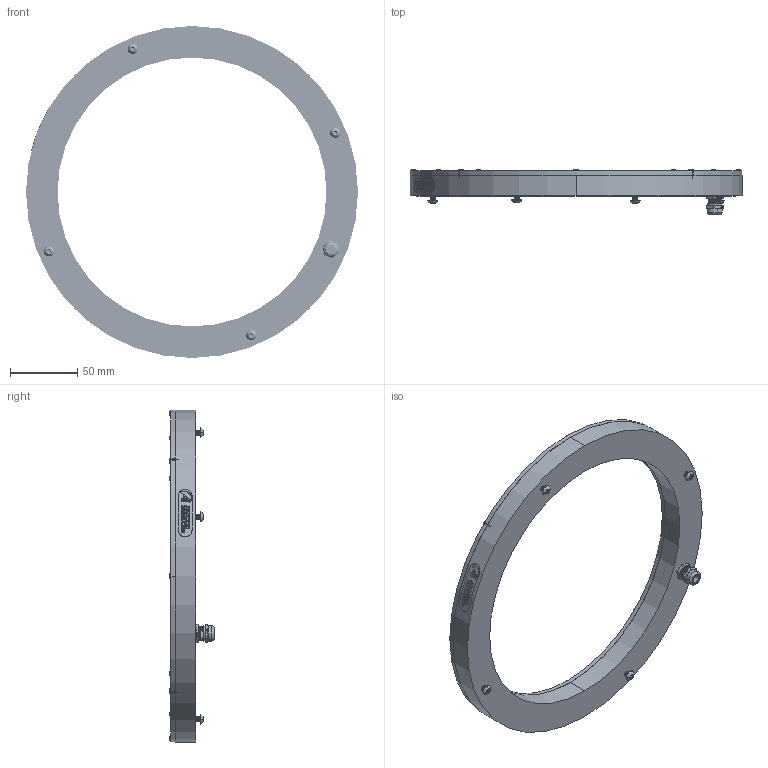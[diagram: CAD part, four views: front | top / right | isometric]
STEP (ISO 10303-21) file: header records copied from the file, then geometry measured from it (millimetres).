
FILE_DESCRIPTION (( 'STEP AP214' ), '1' );
FILE_NAME ('RL208-200_Default.stp', '2021-05-07T17:42:35', ( '' ), ( '' ), 'SwSTEP 2.0', 'SolidWorks 2018', '' );
FILE_SCHEMA (( 'AUTOMOTIVE_DESIGN' ));
Length unit declared in the file: inch
Products named in the file (8): 097992_097992; 91255A077_91255A077; 094702_Default<As Machined>; RL208-200_Default; 095445_Default<As Machined>; 091052 RL208-200; BH-M4x8; 091064_Model_Dome Fittings_Thread Type and Size(Dome)_M10 x 1.5_Hazardous Location-Explosive Proof(ATEX and EExe Versions)_No_
Assembly tree (25 placements, depth 2):
  RL208-200_Default
    094702_Default<As Machined>
    091064_Model_Dome Fittings_Thread Type and Size(Dome)_M10 x 1.5_Hazardous Location-Explosive Proof(ATEX and EExe Versions)_No_
    095445_Default<As Machined>
    097992_097992
    91255A077_91255A077  x16
    BH-M4x8  x4
    091052 RL208-200
Bounding box: 246.86 x 33.64 x 246.86 mm (x, y, z)
Volume: 217058 mm3; surface area: 142747.4 mm2
Topology: 26 solids, 26 shells, 3077 faces, 6656 edges, 3689 vertices
Faces by surface type: cone 1258, cylinder 1196, plane 480, bspline 95, sphere 32, torus 16
Entity records: 33808 total; most frequent: CARTESIAN_POINT 13345, ORIENTED_EDGE 3430, DIRECTION 3233, EDGE_CURVE 1715, AXIS2_PLACEMENT_3D 1304, VERTEX_POINT 1067, EDGE_LOOP 868, FACE_OUTER_BOUND 728
